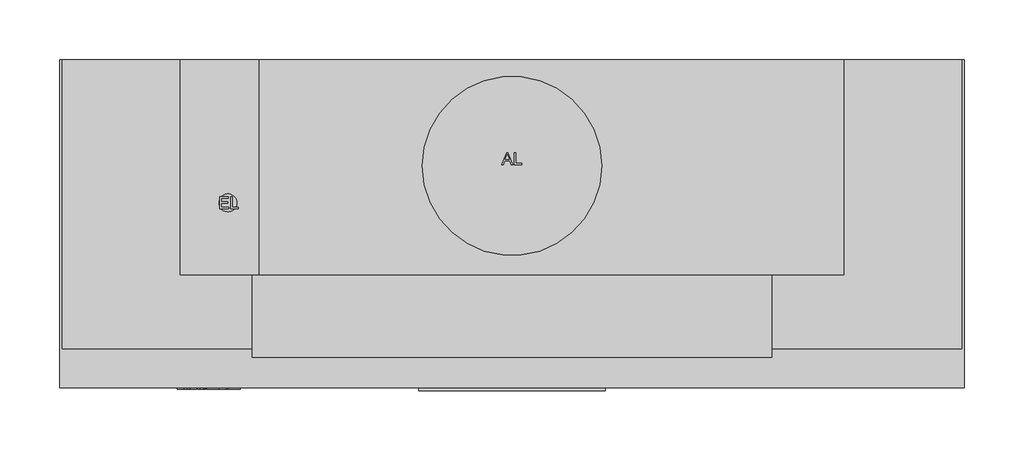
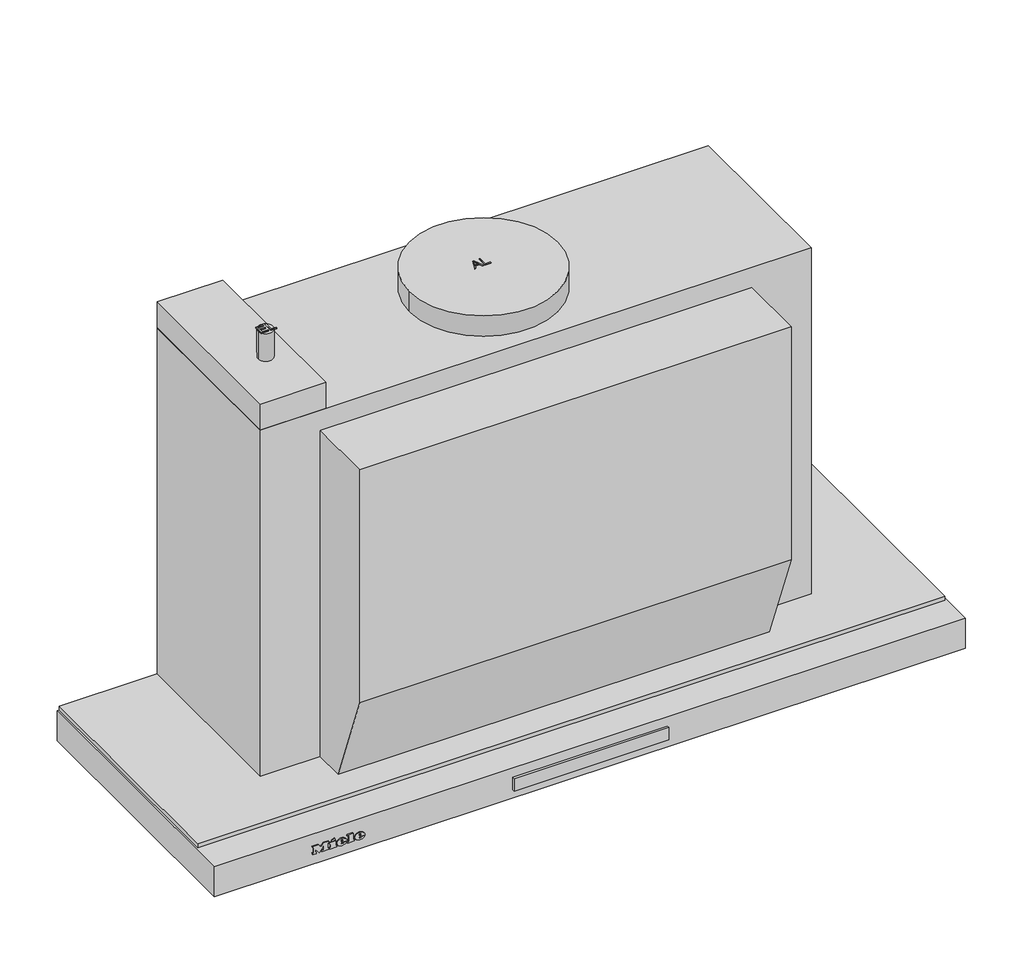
# Not in any storey: 1 proxy.
"""IFC4 building model written with IfcOpenShell, lengths in millimetres."""

from ifc_helpers import new_model, si_unit, origin, place, context, project, spatial, transform, mapped, element, save
from components import specialty_equipment_fe7119d6

model = new_model("IFC4")

# Units and contexts
model_context = context("Model", 3, world=origin())
ifc_project = project(units=[si_unit("LENGTHUNIT", "METRE", prefix="MILLI")], contexts=[model_context])

# Site, building
site = spatial("IfcSite", under=ifc_project)
building = spatial("IfcBuilding", under=site)

# Proxy
placement = place(None, origin())
specialty_equipment_shape = specialty_equipment_fe7119d6(model_context)
element("IfcBuildingElementProxy", 1, Name="11878520_USA_DAS4720_EDST : 28S4720S_USA_11878520_DAS4720_EDST", ObjectType="11878520_USA_DAS4720_EDST : 28S4720S_USA_11878520_DAS4720_EDST", at=placement, inside=building, context=model_context, shape_type="MappedRepresentation", body=[
    mapped(specialty_equipment_shape, transform((0.0, 0.0, 0.0), x_axis=(1.0, 0.0, 0.0), y_axis=(0.0, 1.0, 0.0), z_axis=(0.0, 0.0, 1.0))),
])

save(model, "model.ifc")
